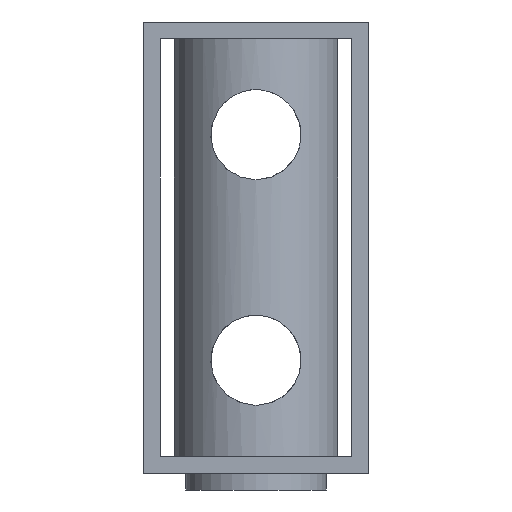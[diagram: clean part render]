
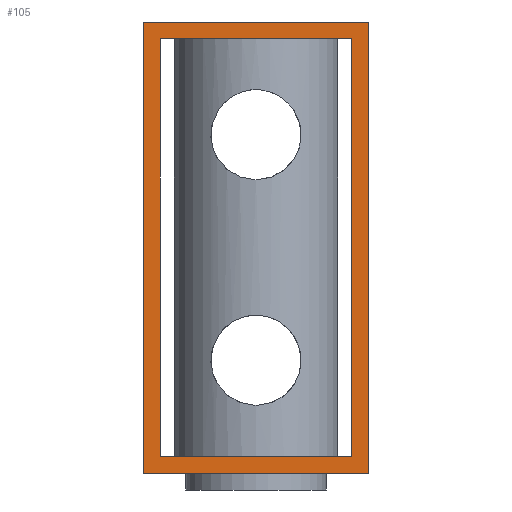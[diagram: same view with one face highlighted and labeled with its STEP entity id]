
A CAD part, front view. The second image highlights one B-rep face of the part: STEP entity #105.
In plain terms, the highlighted planar face has unit normal (0, -1, 0).
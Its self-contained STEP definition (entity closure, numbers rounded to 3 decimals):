
#105 = ADVANCED_FACE( '', ( #261, #262 ), #263, .F. );
#261 = FACE_BOUND( '', #430, .T. );
#262 = FACE_OUTER_BOUND( '', #431, .T. );
#263 = PLANE( '', #432 );
#430 = EDGE_LOOP( '', ( #665, #666, #667, #668 ) );
#431 = EDGE_LOOP( '', ( #669, #670, #671, #672 ) );
#432 = AXIS2_PLACEMENT_3D( '', #673, #674, #675 );
#665 = ORIENTED_EDGE( '', *, *, #801, .T. );
#666 = ORIENTED_EDGE( '', *, *, #821, .T. );
#667 = ORIENTED_EDGE( '', *, *, #809, .T. );
#668 = ORIENTED_EDGE( '', *, *, #763, .T. );
#669 = ORIENTED_EDGE( '', *, *, #815, .F. );
#670 = ORIENTED_EDGE( '', *, *, #823, .F. );
#671 = ORIENTED_EDGE( '', *, *, #744, .F. );
#672 = ORIENTED_EDGE( '', *, *, #824, .F. );
#673 = CARTESIAN_POINT( '', ( 0., -20., 0. ) );
#674 = DIRECTION( '', ( 0., 1., 0. ) );
#675 = DIRECTION( '', ( 0., 0., 1. ) );
#744 = EDGE_CURVE( '', #851, #852, #853, .T. );
#763 = EDGE_CURVE( '', #884, #885, #886, .T. );
#801 = EDGE_CURVE( '', #885, #946, #947, .T. );
#809 = EDGE_CURVE( '', #960, #884, #961, .T. );
#815 = EDGE_CURVE( '', #968, #969, #970, .T. );
#821 = EDGE_CURVE( '', #946, #960, #977, .T. );
#823 = EDGE_CURVE( '', #852, #968, #979, .T. );
#824 = EDGE_CURVE( '', #969, #851, #980, .T. );
#851 = VERTEX_POINT( '', #1008 );
#852 = VERTEX_POINT( '', #1009 );
#853 = LINE( '', #1010, #1011 );
#884 = VERTEX_POINT( '', #1045 );
#885 = VERTEX_POINT( '', #1046 );
#886 = LINE( '', #1047, #1048 );
#946 = VERTEX_POINT( '', #1669 );
#947 = LINE( '', #1670, #1671 );
#960 = VERTEX_POINT( '', #1685 );
#961 = LINE( '', #1686, #1687 );
#968 = VERTEX_POINT( '', #1695 );
#969 = VERTEX_POINT( '', #1696 );
#970 = LINE( '', #1697, #1698 );
#977 = LINE( '', #1707, #1708 );
#979 = LINE( '', #1710, #1711 );
#980 = LINE( '', #1712, #1713 );
#1008 = CARTESIAN_POINT( '', ( 10., -20., 30. ) );
#1009 = CARTESIAN_POINT( '', ( 10., -20., -10. ) );
#1010 = CARTESIAN_POINT( '', ( 10., -20., 30. ) );
#1011 = VECTOR( '', #1748, 1000. );
#1045 = CARTESIAN_POINT( '', ( 8.5, -20., -8.5 ) );
#1046 = CARTESIAN_POINT( '', ( -8.5, -20., -8.5 ) );
#1047 = CARTESIAN_POINT( '', ( 8.5, -20., -8.5 ) );
#1048 = VECTOR( '', #1782, 1000. );
#1669 = CARTESIAN_POINT( '', ( -8.5, -20., 28.5 ) );
#1670 = CARTESIAN_POINT( '', ( -8.5, -20., -8.5 ) );
#1671 = VECTOR( '', #1816, 1000. );
#1685 = CARTESIAN_POINT( '', ( 8.5, -20., 28.5 ) );
#1686 = CARTESIAN_POINT( '', ( 8.5, -20., 28.5 ) );
#1687 = VECTOR( '', #1833, 1000. );
#1695 = CARTESIAN_POINT( '', ( -10., -20., -10. ) );
#1696 = CARTESIAN_POINT( '', ( -10., -20., 30. ) );
#1697 = CARTESIAN_POINT( '', ( -10., -20., -10. ) );
#1698 = VECTOR( '', #1838, 1000. );
#1707 = CARTESIAN_POINT( '', ( -8.5, -20., 28.5 ) );
#1708 = VECTOR( '', #1844, 1000. );
#1710 = CARTESIAN_POINT( '', ( 10., -20., -10. ) );
#1711 = VECTOR( '', #1845, 1000. );
#1712 = CARTESIAN_POINT( '', ( -10., -20., 30. ) );
#1713 = VECTOR( '', #1846, 1000. );
#1748 = DIRECTION( '', ( 0., 0., -1. ) );
#1782 = DIRECTION( '', ( -1., 0., 0. ) );
#1816 = DIRECTION( '', ( 0., 0., 1. ) );
#1833 = DIRECTION( '', ( 0., 0., -1. ) );
#1838 = DIRECTION( '', ( 0., 0., 1. ) );
#1844 = DIRECTION( '', ( 1., 0., 0. ) );
#1845 = DIRECTION( '', ( -1., 0., 0. ) );
#1846 = DIRECTION( '', ( 1., 0., 0. ) );
